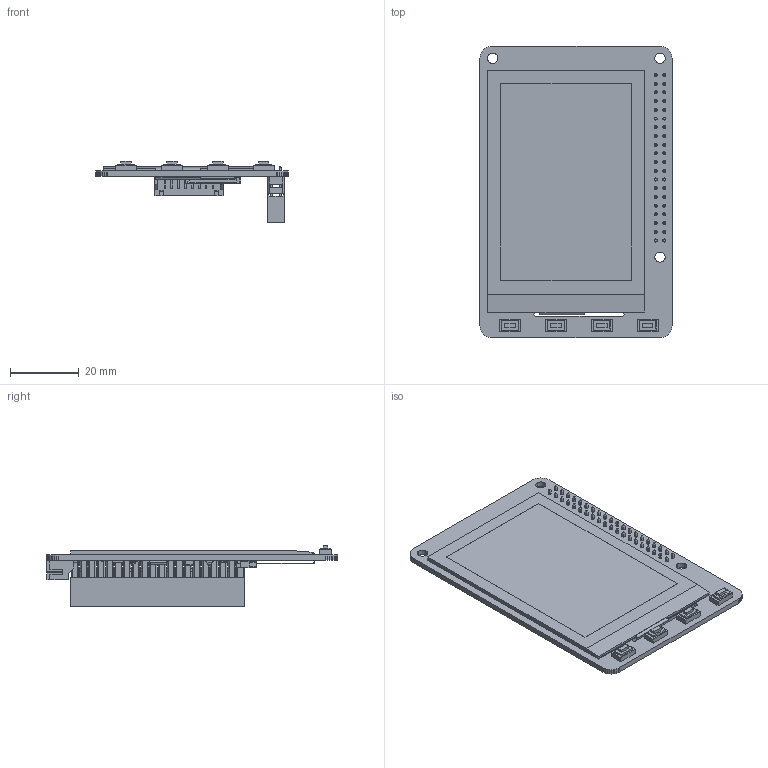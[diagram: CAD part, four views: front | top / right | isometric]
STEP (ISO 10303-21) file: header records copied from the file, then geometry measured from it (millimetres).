
FILE_DESCRIPTION((''),'2;1');
FILE_NAME('2_7INCH_E-PAPER_HAT_ASM','2024-06-28T20:19:53',('xiaojisheng'),(''),'CREO PARAMETRIC BY PTC INC, 2021063','CREO PARAMETRIC BY PTC INC, 2021063','');
FILE_SCHEMA(('CONFIG_CONTROL_DESIGN','SHAPE_APPEARANCE_LAYERS_GROUPS'));
Products named in the file (65): 2_7INCH-E_PAPER; BOARD; RESC1608_0603_; R36_ASM; R35_ASM; R3_ASM; R2_ASM; R37_ASM; R34_ASM; R33_ASM; EXTRUDED-10550; 462405904_ASM; EXTRUDED-10922; 1105684544_ASM; Q32_ASM; EXTRUDED-11344; 462405776_ASM; Q31_ASM; R1_ASM; ALSROBOT-SOT23; Q1_ASM; INDC3225_1210_; L1_ASM; J1_ASM; CIRCUITWORKS-SOD123; D3_ASM; D1_ASM; CAPC1608_0603_; C12_ASM; C10_ASM; C8_ASM; C7_ASM; C6_ASM; C5_ASM; C4_ASM; C3_ASM; C2_ASM; C1_ASM; C13_ASM; C14_ASM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
Assembly tree (98 placements, depth 8):
  2_7INCH_E-PAPER_HAT_ASM
    2_7INCH-E_PAPER
    2_7INCH_E-PAPER_HAT-PCBA_ASM
      PCB_ASM
        BOARD
        R36_ASM
          RESC1608_0603_
        R35_ASM
          RESC1608_0603_
        R3_ASM
          RESC1608_0603_
        R2_ASM
          RESC1608_0603_
        R37_ASM
          RESC1608_0603_
        R34_ASM
          RESC1608_0603_
        R33_ASM
          RESC1608_0603_
        Q32_ASM
          462405904_ASM  x3
            EXTRUDED-10550
          1105684544_ASM
            EXTRUDED-10922
        Q31_ASM
          462405904_ASM  x3
            EXTRUDED-10550
          462405776_ASM
            EXTRUDED-11344
        R1_ASM
          RESC1608_0603_
        Q1_ASM
          ALSROBOT-SOT23
        L1_ASM
          INDC3225_1210_
        J1_ASM
          RESC1608_0603_
        D3_ASM
          CIRCUITWORKS-SOD123
        D1_ASM
          CIRCUITWORKS-SOD123
        C12_ASM
          CAPC1608_0603_
        C10_ASM
          CAPC1608_0603_
        C8_ASM
          CAPC1608_0603_
        C7_ASM
          CAPC1608_0603_
        C6_ASM
          CAPC1608_0603_
        C5_ASM
          CAPC1608_0603_
        C4_ASM
          CAPC1608_0603_
        C3_ASM
          CAPC1608_0603_
        C2_ASM
          CAPC1608_0603_
        C1_ASM
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Bounding box: 56.02 x 85.02 x 17.9 mm (x, y, z)
Volume: 14326.2 mm3; surface area: 27845.7 mm2
Topology: 55 solids, 55 shells, 4411 faces, 11121 edges, 6760 vertices
Faces by surface type: plane 3241, cylinder 948, sphere 216, extrusion 6
Entity records: 122869 total; most frequent: CARTESIAN_POINT 17200, ORIENTED_EDGE 16726, DIRECTION 16177, EDGE_CURVE 8363, VECTOR 7459, LINE 7453, PRESENTATION_STYLE_ASSIGNMENT 7288, STYLED_ITEM 7167
